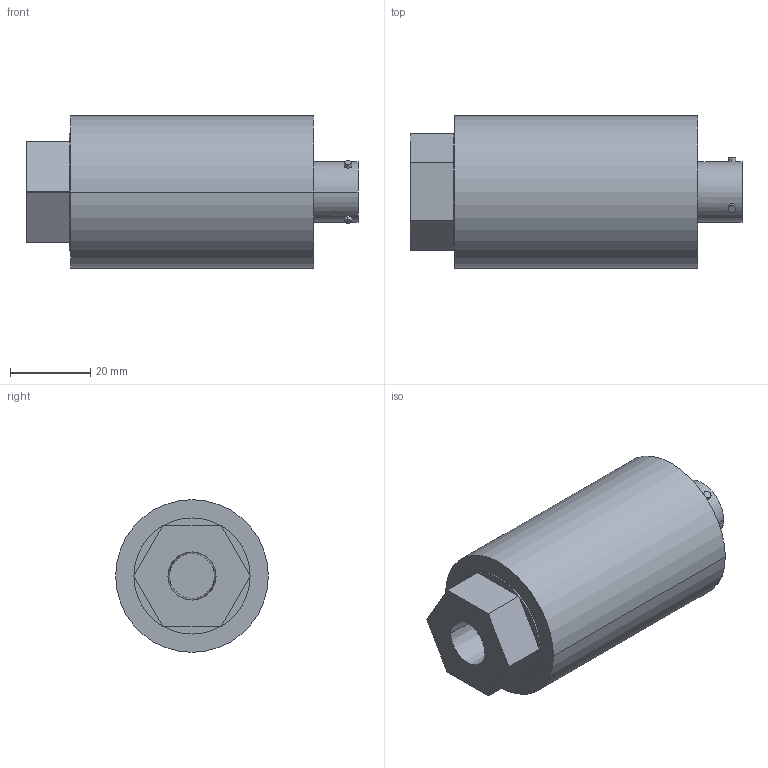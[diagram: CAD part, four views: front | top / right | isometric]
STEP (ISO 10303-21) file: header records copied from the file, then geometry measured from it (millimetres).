
FILE_DESCRIPTION(('STEP AP214'),'1');
FILE_NAME('burster_8267-5200_4pfulfo6zkojnt6fvxl8wpxkn.stp','2017-04-19T20:06:17',('TraceParts'),('TraceParts S.A.'),'Spatial InterOp 3D',' ',' ');
FILE_SCHEMA(('automotive_design'));
Length unit declared in the file: millimetre
Products named in the file (1): burster_8267-5200_4pfulfo6zkojnt6fvxl8wpxkn
Bounding box: 82.9 x 38.1 x 38.1 mm (x, y, z)
Volume: 74637.4 mm3; surface area: 12094.5 mm2
Topology: 1 solids, 1 shells, 57 faces, 127 edges, 84 vertices
Faces by surface type: cylinder 28, plane 27, cone 2
Entity records: 2209 total; most frequent: CARTESIAN_POINT 405, DIRECTION 299, ORIENTED_EDGE 254, EDGE_CURVE 127, AXIS2_PLACEMENT_3D 122, VERTEX_POINT 84, EDGE_LOOP 69, CIRCLE 64
